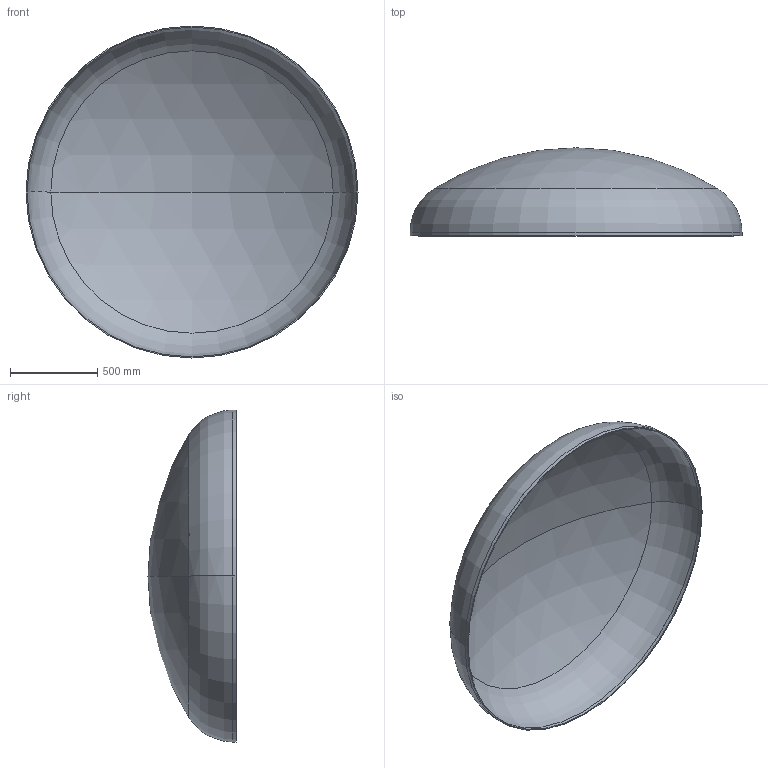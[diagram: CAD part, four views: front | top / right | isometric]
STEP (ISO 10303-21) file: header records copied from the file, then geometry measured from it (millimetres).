
FILE_DESCRIPTION (( 'STEP AP203' ), '1' );
FILE_NAME ('DIN 28013 Korbbogenform_-_Boden DIN 28013 - 1900 x 20 - I - s=6.step', '2016-07-01T12:52:08', ( '' ), ( '' ), 'SwSTEP 2.0', 'SolidWorks 2013', '' );
FILE_SCHEMA (( 'CONFIG_CONTROL_DESIGN' ));
Length unit declared in the file: millimetre
Products named in the file (1): DIN 28013 Korbbogenform_-_Boden DIN 28013 - 1900 x 20 - I - s=6
Bounding box: 1900 x 504.28 x 1900 mm (x, y, z)
Volume: 24137914.4 mm3; surface area: 8081744.6 mm2
Topology: 1 solids, 1 shells, 13 faces, 24 edges, 14 vertices
Faces by surface type: torus 4, cylinder 4, sphere 4, plane 1
Entity records: 407 total; most frequent: DIRECTION 72, CARTESIAN_POINT 52, ORIENTED_EDGE 48, AXIS2_PLACEMENT_3D 34, EDGE_CURVE 24, CIRCLE 20, EDGE_LOOP 14, VERTEX_POINT 14
